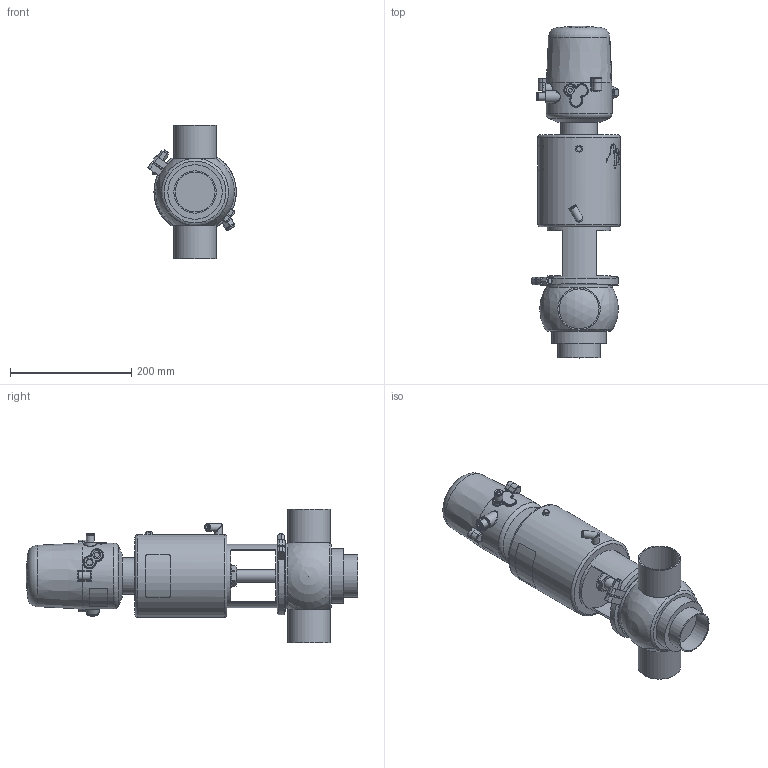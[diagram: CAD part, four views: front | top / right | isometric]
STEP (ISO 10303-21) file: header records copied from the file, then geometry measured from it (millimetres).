
FILE_DESCRIPTION (( 'STEP AP214' ), '1' );
FILE_NAME ('INNOVA N T W DIN 065 T3 AS NC & C-TOP S_10.240.16.0058.STEP', '2024-08-06T08:15:53', ( '' ), ( '' ), 'SwSTEP 2.0', 'SolidWorks 2023', '' );
FILE_SCHEMA (( 'AUTOMOTIVE_DESIGN' ));
Length unit declared in the file: millimetre
Products named in the file (7): 10.240.15.0010_DN 065; 10.240.15.0001_DN 065; INNOVA N T W DIN 065 T3 AS NC & C-TOP S_10.240.16.0058; 10.240.15.0014_T3 AS P0; 10.240.15.0003_DIN 065; 10.426.15.0001_C-TOP S - 1 EV; 10.240.15.0017_Estàndard
Assembly tree (6 placements, depth 2):
  INNOVA N T W DIN 065 T3 AS NC & C-TOP S_10.240.16.0058
    10.240.15.0003_DIN 065
    10.240.15.0010_DN 065
    10.240.15.0014_T3 AS P0
    10.240.15.0017_Estàndard
    10.426.15.0001_C-TOP S - 1 EV
    10.240.15.0001_DN 065
Bounding box: 146.15 x 548.5 x 220 mm (x, y, z)
Volume: 5035502 mm3; surface area: 390883.6 mm2
Topology: 6 solids, 6 shells, 1105 faces, 2655 edges, 1772 vertices
Faces by surface type: plane 378, cylinder 332, cone 191, bspline 160, torus 37, sphere 7
Full cylindrical faces by diameter (mm): 0.371 x17, 0.512 x16, 0.658 x16, 0.795 x16, 0.94 x15, 1.098 x15, 1.241 x13, 1.382 x13, 1.523 x11, 1.669 x10, 2.201 x1, 4 x2, 5.5 x2, 6 x2, 6.15 x1, 8 x4, 8.5 x1, 10 x1, 10.5 x1, 11 x2, 12.5 x3, 13 x2, 13.5 x2, 16 x1, 17 x3, 20 x3, 20.5 x1, 22 x2, 31 x1, 34.5 x3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
Entity records: 57906 total; most frequent: CARTESIAN_POINT 27849, ORIENTED_EDGE 4502, DIRECTION 3619, EDGE_CURVE 2251, VERTEX_POINT 1600, EDGE_LOOP 1557, AXIS2_PLACEMENT_3D 1481, FACE_OUTER_BOUND 1319
